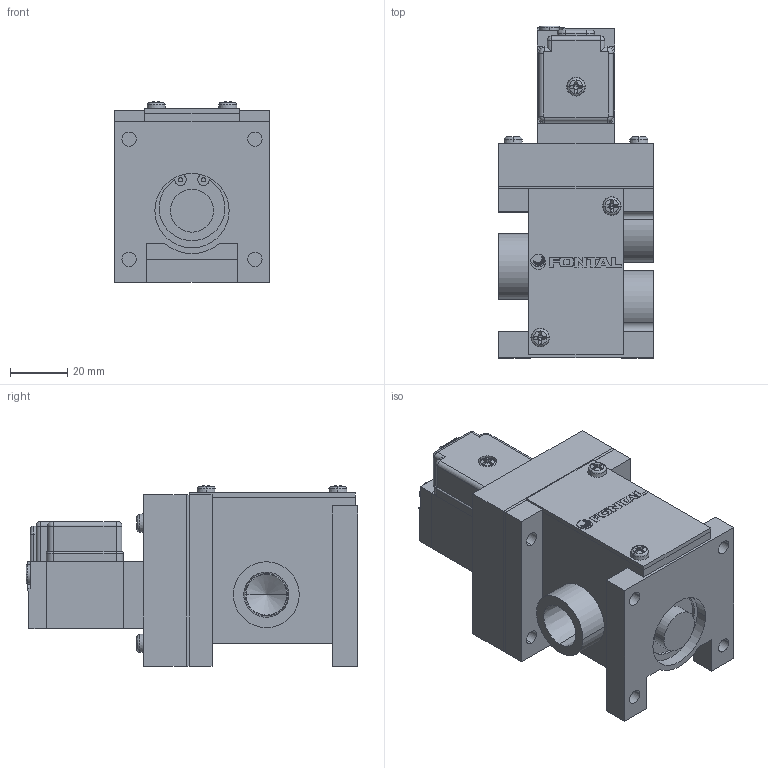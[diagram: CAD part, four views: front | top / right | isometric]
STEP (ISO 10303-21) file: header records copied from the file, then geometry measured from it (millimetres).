
FILE_DESCRIPTION (( 'STEP AP203' ), '1' );
FILE_NAME ('PMS2308#-03-#G#.STEP', '2016-03-09T08:16:24', ( 'Sam Lin' ), ( '' ), 'SwSTEP 2.0', 'SolidWorks 2013', '' );
FILE_SCHEMA (( 'CONFIG_CONTROL_DESIGN' ));
Length unit declared in the file: metre
Products named in the file (15): PMS2308#-03-#G#; PMS2306-5; PMS2308-5; PMS2308-6; PMS2308-1; PM06-C1_1; PMS2308-2; PM06-C4_1; PM08-MARK; PM06-C6-M3_1; PMS2308-3; PM06-C5_1; PMS2308-4; PM06-G1; PM06-C3-M4_1
Assembly tree (21 placements, depth 2):
  PMS2308#-03-#G#
    PMS2308-1
    PMS2308-2
    PM08-MARK
    PMS2308-3
    PMS2308-4
    PM06-C3-M4_1  x7
    PMS2306-5
    PMS2308-5
    PMS2308-6
    PM06-C1_1
    PM06-C4_1
    PM06-C6-M3_1  x2
    PM06-C5_1
    PM06-G1
Bounding box: 54 x 116 x 63.05 mm (x, y, z)
Volume: 210801.1 mm3; surface area: 62583.9 mm2
Topology: 27 solids, 27 shells, 656 faces, 1613 edges, 1010 vertices
Faces by surface type: plane 341, cylinder 148, cone 89, bspline 74, torus 4
Entity records: 14930 total; most frequent: CARTESIAN_POINT 3224, DIRECTION 2093, ORIENTED_EDGE 2026, EDGE_CURVE 1013, AXIS2_PLACEMENT_3D 752, VERTEX_POINT 653, VECTOR 589, LINE 589
